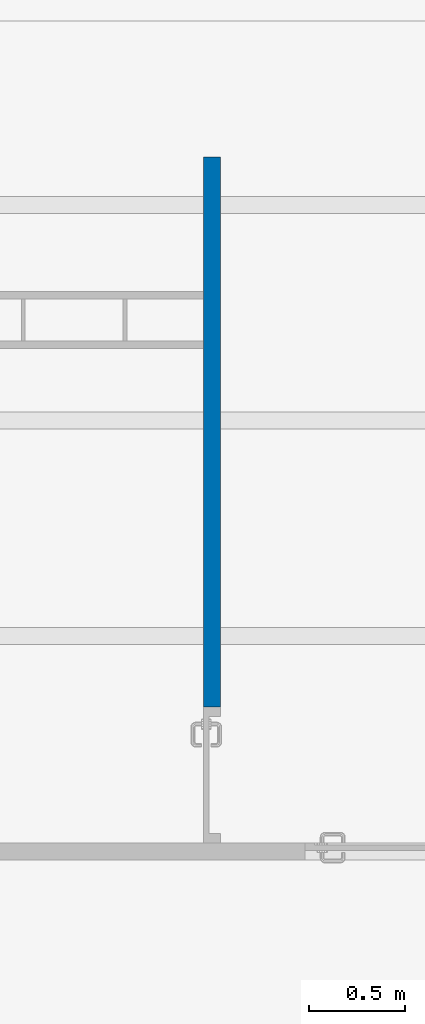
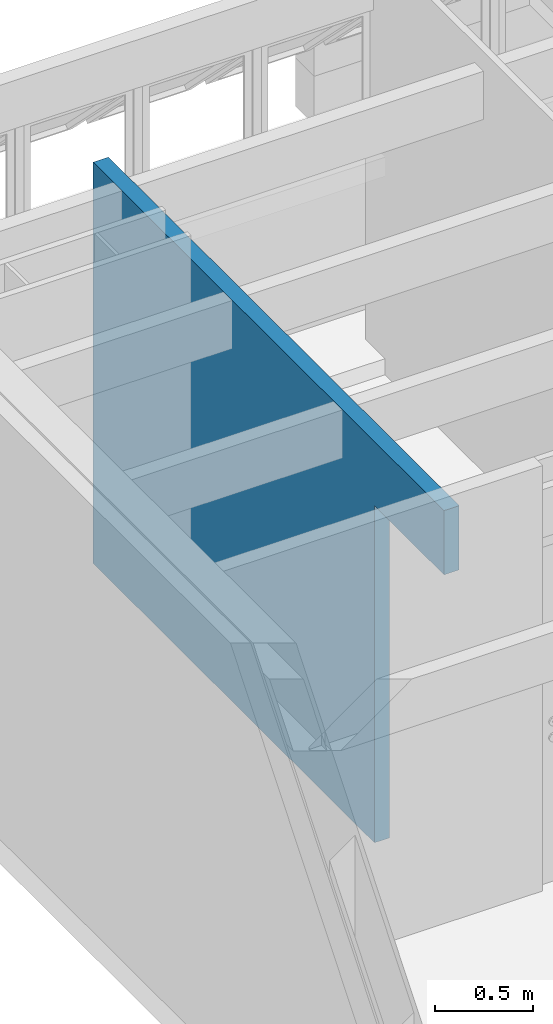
# One storey, part 21 of 40: 1 wall, 1 opening.
"""IFC4 building model written with IfcOpenShell, lengths in millimetres."""

from ifc_helpers import new_model, entity, si_unit, converted_unit, derived_unit, direction, frame, origin_with_axes, origin_2d_with_axis, place, context, subcontext, project, spatial, line, indexed_curve, rectangle, outline, extrude, material, layer, layer_set, layer_usage, type_object, element, save


model = new_model("IFC4")

# Units and contexts
model_context = context("Model", 3, precision=0.01, world=origin_with_axes(), true_north=direction((0.0, 1.0)))
body_context = subcontext(model_context, "Body", "Model", "MODEL_VIEW")
ifc_project = project(units=[si_unit("LENGTHUNIT", "METRE", prefix="MILLI"), si_unit("AREAUNIT", "SQUARE_METRE"), si_unit("VOLUMEUNIT", "CUBIC_METRE"), converted_unit("PLANEANGLEUNIT", "DEGREE", entity("IfcPlaneAngleMeasure", 0.0174532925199), si_unit("PLANEANGLEUNIT", "RADIAN"), dimensions=[0, 0, 0, 0, 0, 0, 0]), converted_unit("TIMEUNIT", "Year", entity("IfcTimeMeasure", 31556926.0), si_unit("TIMEUNIT", "SECOND"), dimensions=[0, 0, 1, 0, 0, 0, 0]), si_unit("MASSUNIT", "GRAM", prefix="KILO"), si_unit("THERMODYNAMICTEMPERATUREUNIT", "DEGREE_CELSIUS"), si_unit("LUMINOUSINTENSITYUNIT", "LUMEN"), si_unit("ENERGYUNIT", "JOULE", prefix="MEGA"), derived_unit("THERMALCONDUCTANCEUNIT", [(si_unit("POWERUNIT", "WATT"), 1), (si_unit("LENGTHUNIT", "METRE"), -1), (si_unit("THERMODYNAMICTEMPERATUREUNIT", "KELVIN"), -1)]), derived_unit("SPECIFICHEATCAPACITYUNIT", [(si_unit("ENERGYUNIT", "JOULE"), 1), (si_unit("MASSUNIT", "GRAM", prefix="KILO"), -1), (si_unit("THERMODYNAMICTEMPERATUREUNIT", "KELVIN"), -1)]), derived_unit("MASSDENSITYUNIT", [(si_unit("MASSUNIT", "GRAM", prefix="KILO"), 1), (si_unit("VOLUMEUNIT", "CUBIC_METRE"), -1)])], contexts=[model_context])

# Site, building, storey
site_placement = place(None, origin_with_axes())
site = spatial("IfcSite", under=ifc_project, at=site_placement, Name="Local", CompositionType="ELEMENT")
building_placement = place(site_placement, origin_with_axes())
building = spatial("IfcBuilding", under=site, at=building_placement, Name="Construção", CompositionType="ELEMENT")
storey_placement = place(building_placement, origin_with_axes())
storey = spatial("IfcBuildingStorey", under=building, at=storey_placement, Name="Primeiro Pavimento", CompositionType="ELEMENT", Elevation=0.0)

# Wall, opening
ifc_material = material(Name="GENÉRICO - VEDAÇÃO EXTERNA")
ifc_layer = layer(ifc_material, 90.0, ventilated="UNKNOWN", Name="GENÉRICO - VEDAÇÃO EXTERNA")
ifc_layer_set = layer_set([ifc_layer], Name="GENÉRICO - VEDAÇÃO EXTERNA 90")
ifc_layer_usage = layer_usage(ifc_layer_set, "AXIS2", "NEGATIVE", 0.0)
wall_type = type_object("IfcWallType", Name="GENÉRICO - VEDAÇÃO EXTERNA 90", PredefinedType="NOTDEFINED")
wall_placement = place(storey_placement, frame((1730.0, 7345.2195667, 0.0), z_axis=(0.0, 0.0, 1.0), x_axis=(0.0, -1.0, 0.0)))
wall = element("IfcWall", 1, at=wall_placement, inside=storey, type_object=wall_type, material=ifc_layer_usage, Name="APTO1-PAREDE-012", PredefinedType="NOTDEFINED", context=body_context, shape_type="SweptSolid", body=[
    extrude(outline(indexed_curve([(0.0, -90.0), (3580.0, -90.0), (3580.0, 0.0), (0.0, 0.0)], segments=[line(1, 2, 3, 4, 1)])), origin_with_axes(), (0.0, 0.0, 1.0), 2500.0),
])
opening_placement = place(wall_placement, frame((3225.0, 0.0, 0.0), z_axis=(0.0, 0.0, 1.0), x_axis=(1.0, 0.0, 0.0)))
element("IfcOpeningElement", 2, at=opening_placement, cuts=wall, Name="APTO1-PORTA-003", context=body_context, shape_type="SweptSolid", body=[
    extrude(rectangle(XDim=710.0, YDim=2100.0, at=origin_2d_with_axis()), frame((0.0, -90.0, 1050.0), z_axis=(0.0, -1.0, 0.0), x_axis=(1.0, 0.0, 0.0)), (0.0, 0.0, -1.0), 270.0),
])

save(model, "model.ifc")
